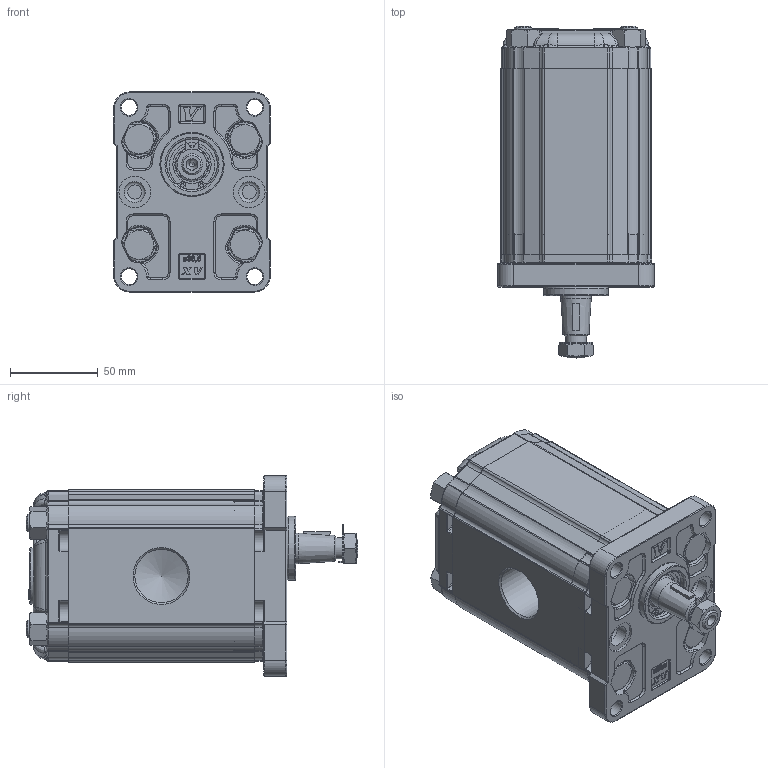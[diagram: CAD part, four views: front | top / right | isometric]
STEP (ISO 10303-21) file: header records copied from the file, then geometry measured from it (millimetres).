
FILE_DESCRIPTION( ( 'Unknown' ), '1' );
FILE_NAME( 'P:/montaggio_easy/output/STP/X2R6301EDDF.stp', 'Unknown', ( 'Unknown' ), ( 'Unknown' ), 'PSStep 14.0', 'Unknown', ' ' );
FILE_SCHEMA( ( 'AUTOMOTIVE_DESIGN { 1 0 10303 214 1 1 1 1 }' ) );
Length unit declared in the file: millimetre
Products named in the file (5): Assem1; X2R01; 2E; X2DDH106; XR201-F
Bounding box: 89 x 188.65 x 113.7 mm (x, y, z)
Surface area: 239087.2 mm2
Topology: 8 solids, 10 shells, 3746 faces, 9642 edges, 6170 vertices
Faces by surface type: plane 1784, cylinder 926, extrusion 380, torus 326, cone 188, bspline 134, sphere 8
Full cylindrical faces by diameter (mm): 2 x4, 9 x8, 10 x8, 12 x8, 12.5 x2, 16 x8, 17.42 x2, 17.48 x4, 18 x4, 18.724 x2, 20.595 x2, 21.741 x2, 25.834 x2, 28.56 x2, 28.57 x2, 28.8 x2, 30.291 x4, 30.5 x2, 36.5 x2
Entity records: 79209 total; most frequent: CARTESIAN_POINT 19336, ORIENTED_EDGE 9424, DIRECTION 8915, EDGE_CURVE 4712, VERTEX_POINT 3062, AXIS2_PLACEMENT_3D 3004, VECTOR 2907, LINE 2717
